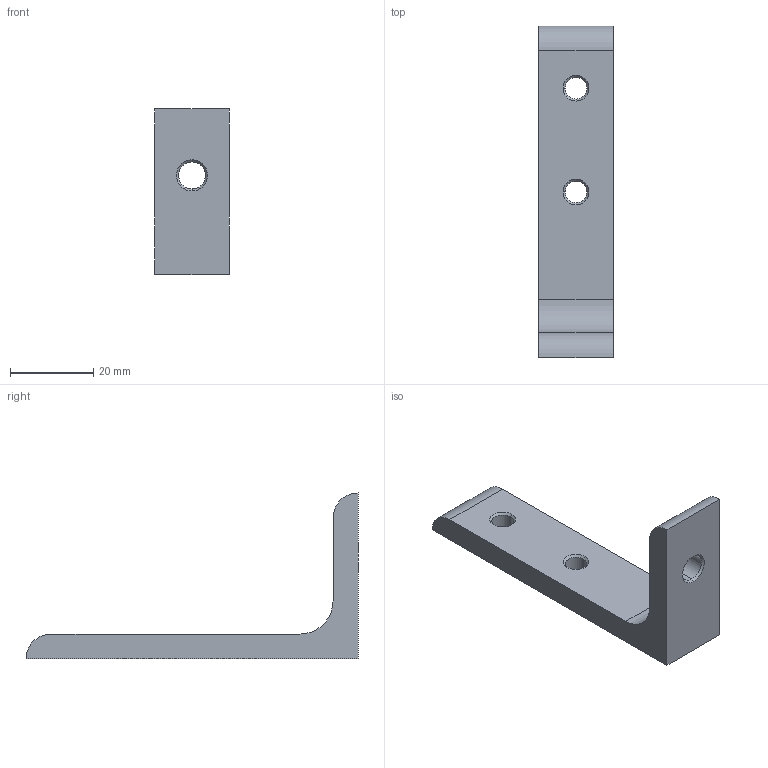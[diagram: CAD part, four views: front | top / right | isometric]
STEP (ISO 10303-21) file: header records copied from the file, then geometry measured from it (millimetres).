
FILE_DESCRIPTION (( 'STEP AP214' ), '1' );
FILE_NAME ('20õ20.STEP', '2017-04-27T08:55:24', ( '' ), ( '' ), 'SwSTEP 2.0', 'SolidWorks 2014', '' );
FILE_SCHEMA (( 'AUTOMOTIVE_DESIGN' ));
Length unit declared in the file: millimetre
Products named in the file (1): 20õ20
Bounding box: 18 x 80 x 40 mm (x, y, z)
Volume: 11813.1 mm3; surface area: 5668.1 mm2
Topology: 1 solids, 1 shells, 27 faces, 63 edges, 38 vertices
Faces by surface type: cone 12, cylinder 9, plane 6
Entity records: 817 total; most frequent: DIRECTION 149, CARTESIAN_POINT 129, ORIENTED_EDGE 126, EDGE_CURVE 63, AXIS2_PLACEMENT_3D 58, VERTEX_POINT 38, LINE 33, EDGE_LOOP 33
